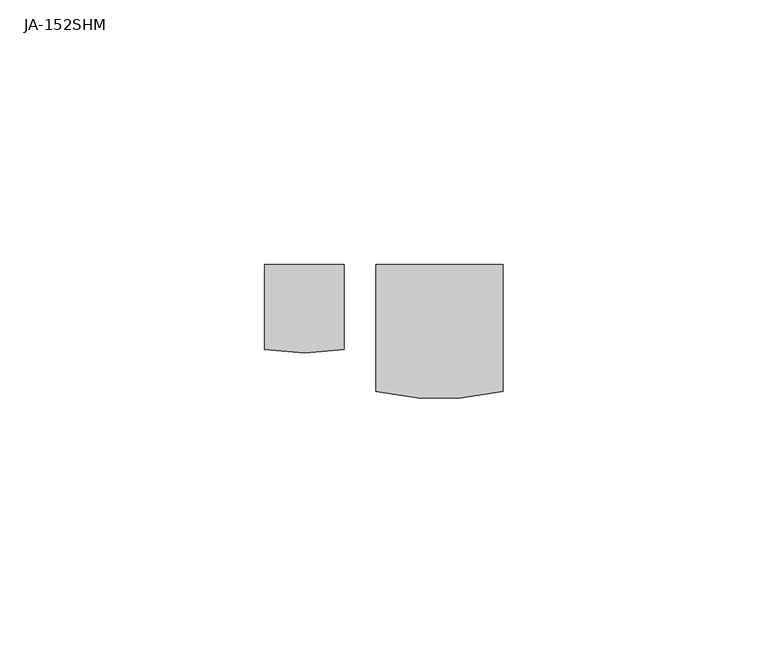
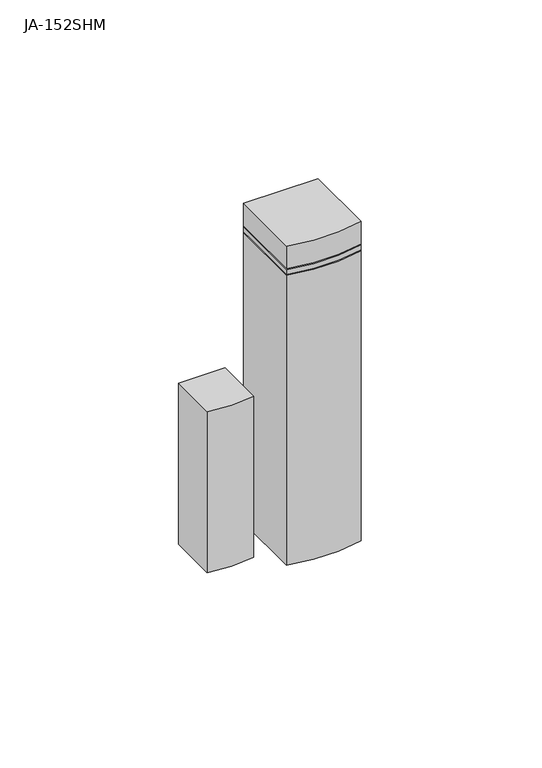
"""IFC4 building model written with IfcOpenShell, lengths in millimetres: proxy geometry, MG detektory.CC : JA-152SHM."""

from ifc_helpers import new_model, si_unit, point, frame, frame_2d, origin, place, context, project, spatial, polyline, circle_curve, trimmed, segment, composite_curve, outline, extrude, source, transform, mapped, element, save


def ja_152shm_018121af(model_context):
    return source(origin(), model_context, "Body", "SweptSolid", [
        extrude(outline(composite_curve([segment(polyline([(12.0, 0.0), (12.0, -24.0)]), True, "CONTINUOUS"), segment(trimmed(circle_curve(frame_2d((0.0, 28.4356298)), 53.7912193), [point((12.0, -24.0))], [point((-12.0, -24.0))], False, "CARTESIAN"), True, "CONTINUOUS"), segment(polyline([(-12.0, -24.0), (-12.0, 0.0), (12.0, 0.0)]), True, "CONTINUOUS")], self_intersect=False)), frame((0.0, 0.0, -54.5), z_axis=(0.0, 0.0, 1.0), x_axis=(1.0, 0.0, 0.0)), (0.0, 0.0, 1.0), 99.0),
        extrude(outline(composite_curve([segment(polyline([(-18.0, 0.0), (-18.0, -16.0)]), True, "CONTINUOUS"), segment(trimmed(circle_curve(frame_2d((-25.5, 23.1423284)), 39.8543834), [point((-18.0, -16.0))], [point((-33.0, -16.0))], False, "CARTESIAN"), True, "CONTINUOUS"), segment(polyline([(-33.0, -16.0), (-33.0, 0.0), (-18.0, 0.0)]), True, "CONTINUOUS")], self_intersect=False)), frame((0.0, 0.0, -54.5), z_axis=(0.0, 0.0, 1.0), x_axis=(1.0, 0.0, 0.0)), (0.0, 0.0, 1.0), 55.0),
        extrude(outline(composite_curve([segment(polyline([(12.0, 0.0), (12.0, -24.0)]), True, "CONTINUOUS"), segment(trimmed(circle_curve(frame_2d((0.0, 28.4356298)), 53.7912193), [point((12.0, -24.0))], [point((-12.0, -24.0))], False, "CARTESIAN"), True, "CONTINUOUS"), segment(polyline([(-12.0, -24.0), (-12.0, 0.0), (12.0, 0.0)]), True, "CONTINUOUS")], self_intersect=False)), frame((0.0, 0.0, 44.5), z_axis=(0.0, 0.0, 1.0), x_axis=(1.0, 0.0, 0.0)), (0.0, 0.0, 1.0), 2.0),
        extrude(outline(composite_curve([segment(polyline([(12.0, 0.0), (12.0, -24.0)]), True, "CONTINUOUS"), segment(trimmed(circle_curve(frame_2d((0.0, 28.4356298)), 53.7912193), [point((12.0, -24.0))], [point((-12.0, -24.0))], False, "CARTESIAN"), True, "CONTINUOUS"), segment(polyline([(-12.0, -24.0), (-12.0, 0.0), (12.0, 0.0)]), True, "CONTINUOUS")], self_intersect=False)), frame((0.0, 0.0, 46.5), z_axis=(0.0, 0.0, 1.0), x_axis=(1.0, 0.0, 0.0)), (0.0, 0.0, 1.0), 8.0),
    ])


if __name__ == "__main__":
    model = new_model("IFC4")
    model_context = context("Model", 3, world=origin())
    ifc_project = project(units=[si_unit("LENGTHUNIT", "METRE", prefix="MILLI")], contexts=[model_context])
    site = spatial("IfcSite", under=ifc_project)
    building = spatial("IfcBuilding", under=site)
    placement = place(None, origin())
    ja_152shm_shape = ja_152shm_018121af(model_context)
    element("IfcBuildingElementProxy", 1, Name="MG detektory.CC : JA-152SHM", ObjectType="MG detektory.CC : JA-152SHM", at=placement, inside=building, context=model_context, shape_type="MappedRepresentation", body=[
        mapped(ja_152shm_shape, transform((0.0, 0.0, 0.0), x_axis=(1.0, 0.0, 0.0), y_axis=(0.0, 1.0, 0.0), z_axis=(0.0, 0.0, 1.0))),
    ])
    save(model, "model.ifc")
